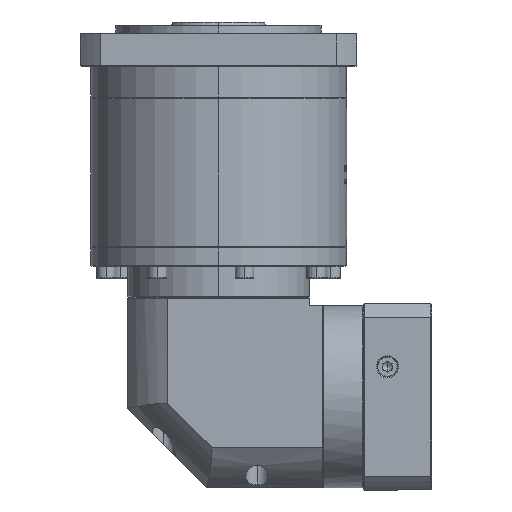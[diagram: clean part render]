
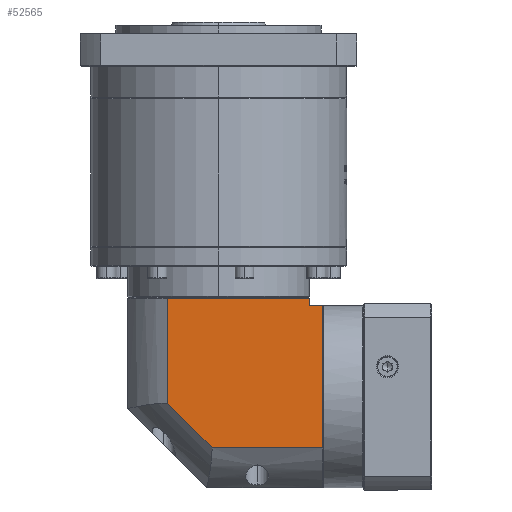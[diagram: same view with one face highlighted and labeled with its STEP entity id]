
A CAD part, left-side view. The second image highlights one B-rep face of the part: STEP entity #52565.
In plain terms, the highlighted planar face has unit normal (-1, 0, 0).
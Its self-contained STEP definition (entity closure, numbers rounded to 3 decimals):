
#505 = LINE ( 'NONE', #103253, #114164 ) ;
#3975 = LINE ( 'NONE', #93050, #15237 ) ;
#8365 = DIRECTION ( 'NONE',  ( 0., 0., -1. ) ) ;
#15237 = VECTOR ( 'NONE', #56064, 1000. ) ;
#15413 = CARTESIAN_POINT ( 'NONE',  ( -242.999, -118.041, -14.789 ) ) ;
#23927 = ORIENTED_EDGE ( 'NONE', *, *, #85984, .F. ) ;
#23999 = AXIS2_PLACEMENT_3D ( 'NONE', #96703, #61249, #107720 ) ;
#28392 = EDGE_CURVE ( 'NONE', #127734, #129815, #3975, .T. ) ;
#31567 = ORIENTED_EDGE ( 'NONE', *, *, #152092, .F. ) ;
#33267 = VECTOR ( 'NONE', #95290, 1000. ) ;
#33820 = VERTEX_POINT ( 'NONE', #41559 ) ;
#41559 = CARTESIAN_POINT ( 'NONE',  ( -242.999, -48.079, -14.789 ) ) ;
#50009 = FACE_OUTER_BOUND ( 'NONE', #113640, .T. ) ;
#52565 = ADVANCED_FACE ( 'NONE', ( #50009 ), #95691, .F. ) ;
#53557 = CARTESIAN_POINT ( 'NONE',  ( -242.999, -109.641, -39.889 ) ) ;
#56064 = DIRECTION ( 'NONE',  ( 0., -1., 0. ) ) ;
#61249 = DIRECTION ( 'NONE',  ( 1., 0., 0. ) ) ;
#65514 = LINE ( 'NONE', #115578, #112202 ) ;
#69674 = VERTEX_POINT ( 'NONE', #96393 ) ;
#69789 = EDGE_CURVE ( 'NONE', #127974, #129815, #103060, .T. ) ;
#72815 = CARTESIAN_POINT ( 'NONE',  ( -242.999, 5.359, -14.789 ) ) ;
#77647 = CARTESIAN_POINT ( 'NONE',  ( -242.999, -19.741, 86.611 ) ) ;
#77996 = EDGE_CURVE ( 'NONE', #33820, #69674, #96188, .T. ) ;
#79772 = VERTEX_POINT ( 'NONE', #124453 ) ;
#84660 = VERTEX_POINT ( 'NONE', #15413 ) ;
#85984 = EDGE_CURVE ( 'NONE', #79772, #84660, #505, .T. ) ;
#87109 = ORIENTED_EDGE ( 'NONE', *, *, #117295, .T. ) ;
#92364 = CARTESIAN_POINT ( 'NONE',  ( -242.999, -48.079, -14.789 ) ) ;
#93050 = CARTESIAN_POINT ( 'NONE',  ( -242.999, 5.359, 80.111 ) ) ;
#95290 = DIRECTION ( 'NONE',  ( 0., 1., 0. ) ) ;
#95691 = PLANE ( 'NONE',  #23999 ) ;
#96188 = LINE ( 'NONE', #92364, #127924 ) ;
#96393 = CARTESIAN_POINT ( 'NONE',  ( -242.999, -19.741, 13.549 ) ) ;
#96703 = CARTESIAN_POINT ( 'NONE',  ( -242.999, 5.359, 86.611 ) ) ;
#100292 = ORIENTED_EDGE ( 'NONE', *, *, #140602, .F. ) ;
#100543 = LINE ( 'NONE', #72815, #33267 ) ;
#101030 = CARTESIAN_POINT ( 'NONE',  ( -242.999, -109.641, 75.111 ) ) ;
#103060 = LINE ( 'NONE', #53557, #127289 ) ;
#103253 = CARTESIAN_POINT ( 'NONE',  ( -242.999, -118.041, 86.611 ) ) ;
#104627 = DIRECTION ( 'NONE',  ( 0., 1., 0. ) ) ;
#107720 = DIRECTION ( 'NONE',  ( 0., 1., 0. ) ) ;
#109268 = VECTOR ( 'NONE', #137576, 1000. ) ;
#110571 = ORIENTED_EDGE ( 'NONE', *, *, #28392, .F. ) ;
#112202 = VECTOR ( 'NONE', #104627, 1000. ) ;
#113288 = ORIENTED_EDGE ( 'NONE', *, *, #77996, .F. ) ;
#113640 = EDGE_LOOP ( 'NONE', ( #100292, #113288, #31567, #23927, #87109, #121680, #110571 ) ) ;
#114164 = VECTOR ( 'NONE', #8365, 1000. ) ;
#115578 = CARTESIAN_POINT ( 'NONE',  ( -242.999, -109.641, 75.111 ) ) ;
#115745 = CARTESIAN_POINT ( 'NONE',  ( -242.999, -19.741, 80.111 ) ) ;
#117295 = EDGE_CURVE ( 'NONE', #79772, #127974, #65514, .T. ) ;
#121680 = ORIENTED_EDGE ( 'NONE', *, *, #69789, .T. ) ;
#122862 = CARTESIAN_POINT ( 'NONE',  ( -242.999, -109.641, 80.111 ) ) ;
#124453 = CARTESIAN_POINT ( 'NONE',  ( -242.999, -118.041, 75.111 ) ) ;
#127289 = VECTOR ( 'NONE', #136456, 1000. ) ;
#127734 = VERTEX_POINT ( 'NONE', #115745 ) ;
#127924 = VECTOR ( 'NONE', #151871, 1000. ) ;
#127974 = VERTEX_POINT ( 'NONE', #101030 ) ;
#129815 = VERTEX_POINT ( 'NONE', #122862 ) ;
#136456 = DIRECTION ( 'NONE',  ( 0., 0., 1. ) ) ;
#137576 = DIRECTION ( 'NONE',  ( 0., 0., 1. ) ) ;
#140602 = EDGE_CURVE ( 'NONE', #69674, #127734, #148470, .T. ) ;
#148470 = LINE ( 'NONE', #77647, #109268 ) ;
#151871 = DIRECTION ( 'NONE',  ( 0., 0.707, 0.707 ) ) ;
#152092 = EDGE_CURVE ( 'NONE', #84660, #33820, #100543, .T. ) ;
